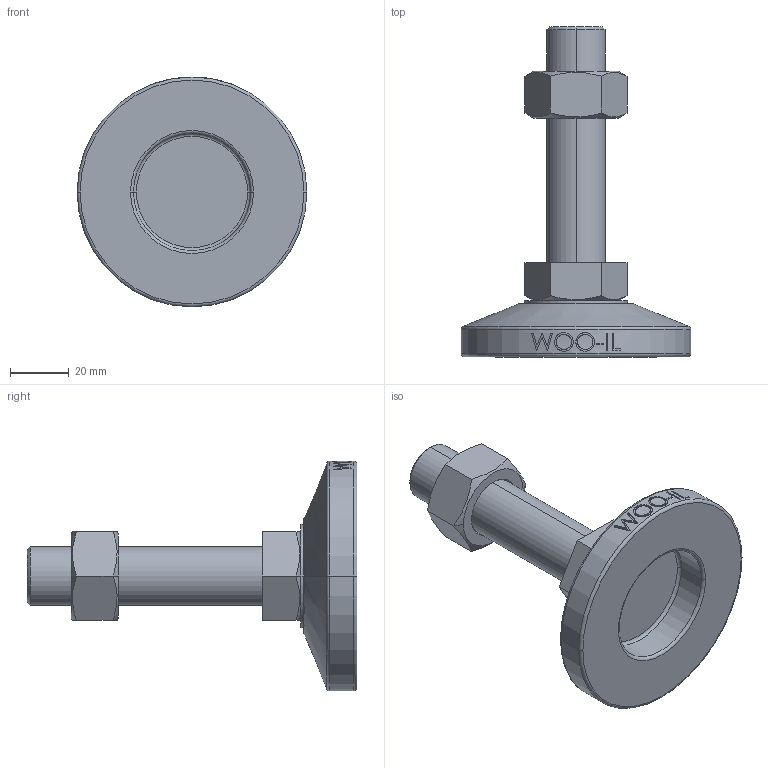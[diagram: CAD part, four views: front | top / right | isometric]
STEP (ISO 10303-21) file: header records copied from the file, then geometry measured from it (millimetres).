
FILE_DESCRIPTION (( 'STEP AP214' ), '1' );
FILE_NAME ('MFT78-M20-80.step', '2021-03-29T04:45:02', ( '' ), ( '' ), 'SwSTEP 2.0', 'SolidWorks 2019', '' );
FILE_SCHEMA (( 'AUTOMOTIVE_DESIGN' ));
Length unit declared in the file: millimetre
Products named in the file (2): MFT78-M20-80
Bounding box: 78 x 112 x 78 mm (x, y, z)
Volume: 99109.2 mm3; surface area: 24880 mm2
Topology: 3 solids, 3 shells, 106 faces, 243 edges, 154 vertices
Faces by surface type: plane 48, cylinder 18, bspline 16, cone 14, torus 10
Entity records: 4518 total; most frequent: CARTESIAN_POINT 2175, ORIENTED_EDGE 486, DIRECTION 439, EDGE_CURVE 243, AXIS2_PLACEMENT_3D 170, VERTEX_POINT 154, EDGE_LOOP 119, ADVANCED_FACE 106
